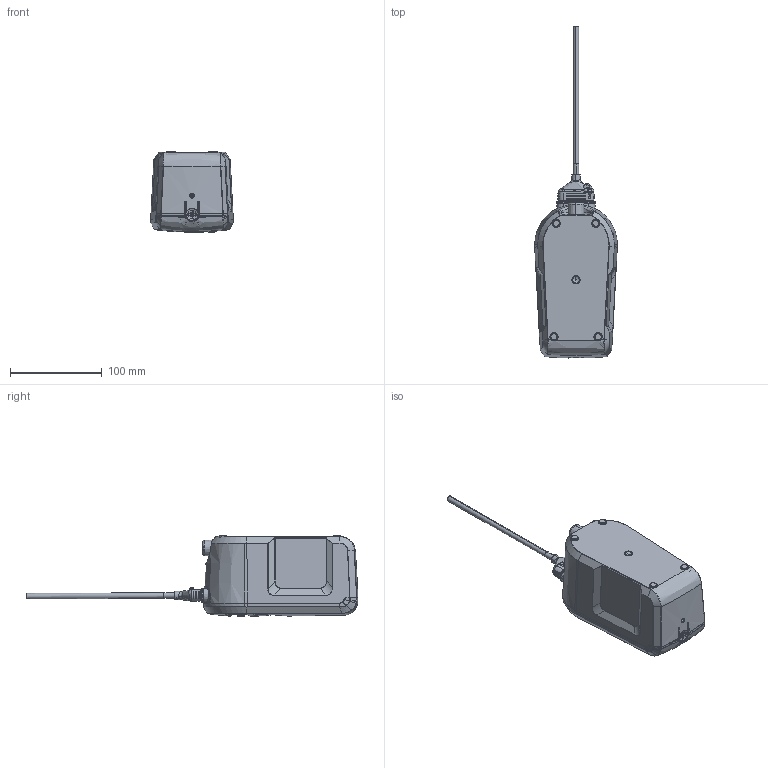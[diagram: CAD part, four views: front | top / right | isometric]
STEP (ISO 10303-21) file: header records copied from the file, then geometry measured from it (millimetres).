
FILE_DESCRIPTION (( 'STEP AP214' ), '1' );
FILE_NAME ('Sauermann_Si-60.STEP', '2021-04-26T08:06:31', ( '' ), ( '' ), 'SwSTEP 2.0', 'SolidWorks 2020', '' );
FILE_SCHEMA (( 'AUTOMOTIVE_DESIGN' ));
Length unit declared in the file: millimetre
Products named in the file (16): JOI60000_Bumper Si-60; INJ11042; PLG01-Joint torique 401.3 x 36.8; ASS_SI-60_EXE_seule; SCAB1200X_Ouverte; AMP Faston 2.8_160655_sldprt; lovage SCAB110XX_part2; PLG01-Connecteur OM1100; Lovage SCAB1100x_cƒble droit; INJ11041; Sauermann_Si-60; PLG01-SCAB11XXX_Surmoulage_v2; PLG01-Peigne-X000627 ind C verrouillage arr; Lovage SCAB1200X_Cable droit; Si-60_Bac_Gris_EXE-A2; PLG01-Connecteur surmoule_Sans cƒble
Assembly tree (21 placements, depth 5):
  Sauermann_Si-60
    Si-60_Bac_Gris_EXE-A2
    JOI60000_Bumper Si-60  x4
    ASS_SI-60_EXE_seule
    Lovage SCAB1200X_Cable droit
      lovage SCAB110XX_part2
      Lovage SCAB1100x_cƒble droit
      SCAB1200X_Ouverte
        PLG01-Connecteur surmoule_Sans cƒble
          PLG01-SCAB11XXX_Surmoulage_v2
          PLG01-Connecteur OM1100
          PLG01-Peigne-X000627 ind C verrouillage arr
        PLG01-Joint torique 401.3 x 36.8
        INJ11042
        INJ11041
        AMP Faston 2.8_160655_sldprt  x4
Bounding box: 90 x 361.17 x 89.15 mm (x, y, z)
Volume: 101327.5 mm3; surface area: 195775.4 mm2
Topology: 17 solids, 43 shells, 2923 faces, 8265 edges, 5303 vertices
Faces by surface type: bspline 1077, plane 915, cylinder 521, cone 284, torus 110, sphere 16
Entity records: 154655 total; most frequent: CARTESIAN_POINT 83829, ORIENTED_EDGE 13647, DIRECTION 9622, EDGE_CURVE 7362, VERTEX_POINT 4775, AXIS2_PLACEMENT_3D 3509, EDGE_LOOP 2741, B_SPLINE_CURVE_WITH_KNOTS 2619
